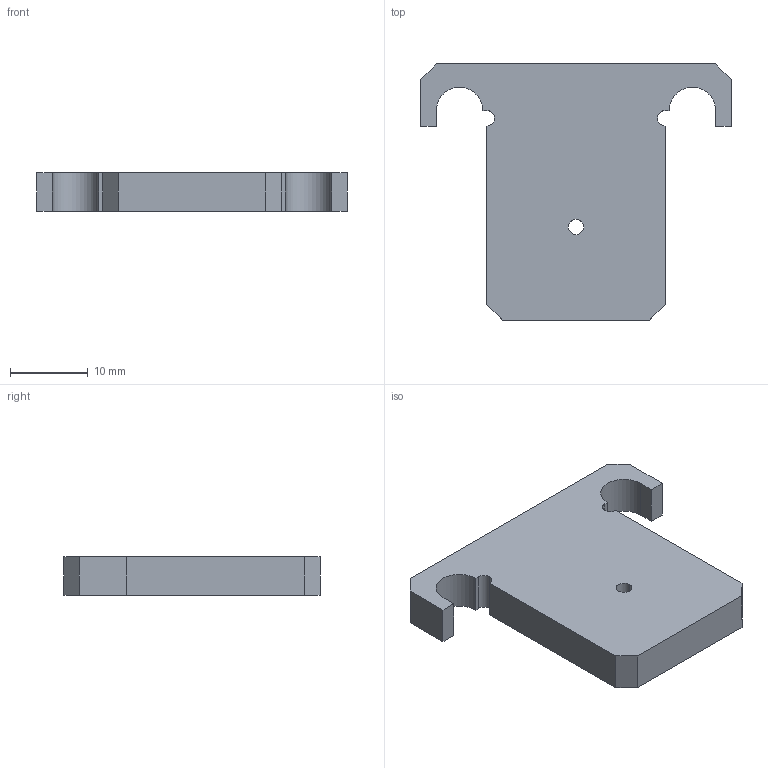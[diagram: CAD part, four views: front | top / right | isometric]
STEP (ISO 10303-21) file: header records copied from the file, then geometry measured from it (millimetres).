
FILE_DESCRIPTION (( 'STEP AP203' ), '1' );
FILE_NAME ('CM-26T02.STEP', '2017-02-27T05:15:23', ( 'user' ), ( '' ), 'SwSTEP 2.0', 'SolidWorks 2012', '' );
FILE_SCHEMA (( 'CONFIG_CONTROL_DESIGN' ));
Length unit declared in the file: millimetre
Products named in the file (1): CM-26T02
Bounding box: 40 x 33 x 5 mm (x, y, z)
Volume: 4132.2 mm3; surface area: 2476.5 mm2
Topology: 1 solids, 1 shells, 25 faces, 69 edges, 46 vertices
Faces by surface type: plane 18, cylinder 7
Entity records: 878 total; most frequent: CARTESIAN_POINT 141, ORIENTED_EDGE 138, DIRECTION 135, EDGE_CURVE 69, VECTOR 55, LINE 55, VERTEX_POINT 46, AXIS2_PLACEMENT_3D 40
